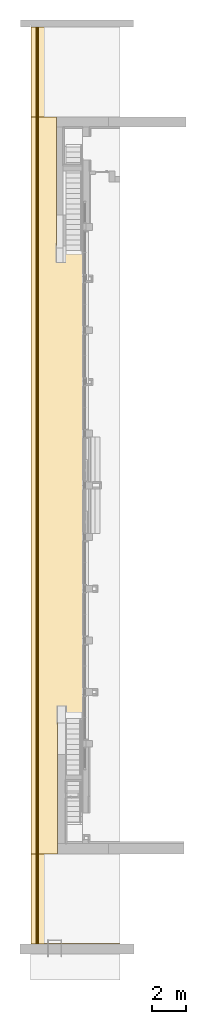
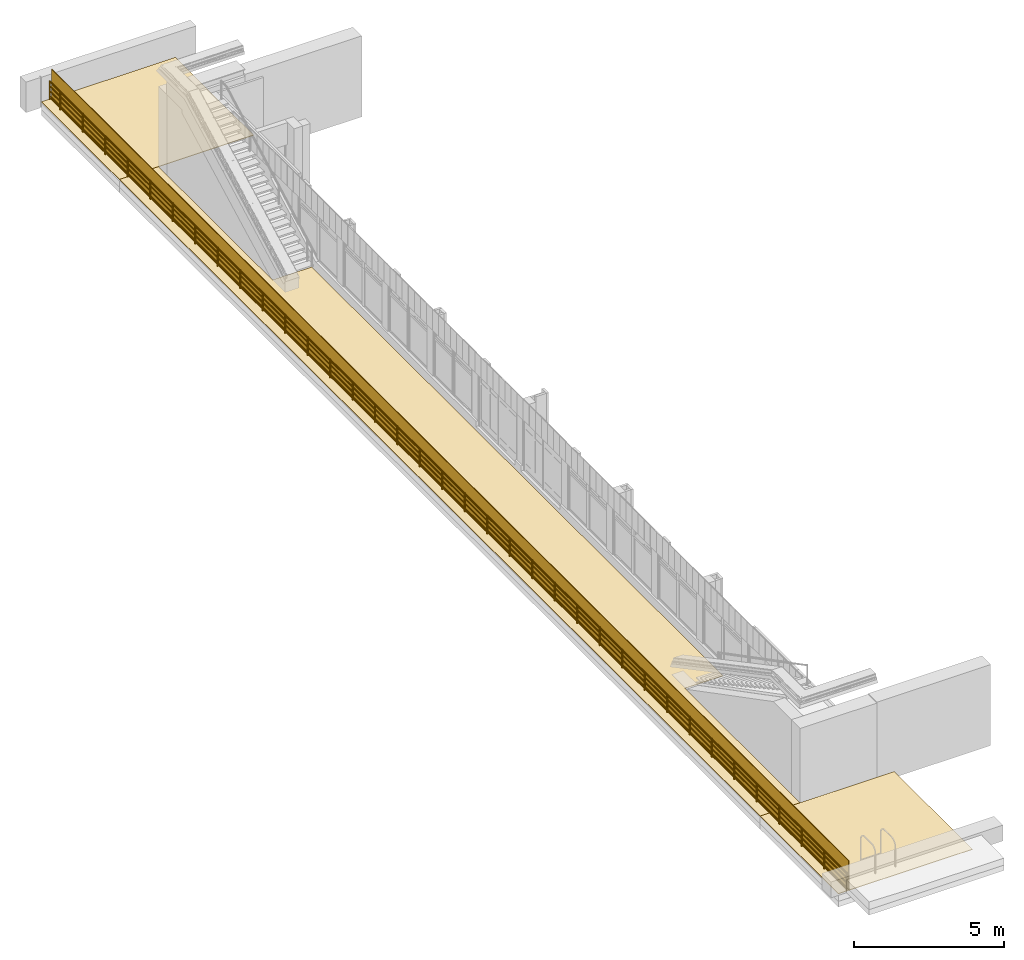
# One storey, part 13 of 16: 3 coverings, 2 railings.
"""IFC2X3 building model written with IfcOpenShell, lengths in millimetres."""

from ifc_helpers import new_model, entity, si_unit, converted_unit, derived_unit, direction, frame, frame_2d, origin, origin_2d_with_axis, place, context, subcontext, project, spatial, polyline, rectangle, circle, outline, extrude, material, material_list, layer, layer_set, layer_usage, type_object, element, save


model = new_model("IFC2X3")

# Units and contexts
model_context = context("Model", 3, precision=0.01, world=origin(), true_north=direction((6.123031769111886e-17, 1.0)))
body_context = subcontext(model_context, "Body", "Model", "MODEL_VIEW")
ifc_project = project(units=[si_unit("LENGTHUNIT", "METRE", prefix="MILLI"), si_unit("AREAUNIT", "SQUARE_METRE"), si_unit("VOLUMEUNIT", "CUBIC_METRE"), converted_unit("PLANEANGLEUNIT", "DEGREE", entity("IfcPlaneAngleMeasure", 0.017453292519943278), si_unit("PLANEANGLEUNIT", "RADIAN"), dimensions=[0, 0, 0, 0, 0, 0, 0]), si_unit("MASSUNIT", "GRAM", prefix="KILO"), derived_unit("MASSDENSITYUNIT", [(si_unit("MASSUNIT", "GRAM", prefix="KILO"), 1), (si_unit("LENGTHUNIT", "METRE"), -3)]), derived_unit("IONCONCENTRATIONUNIT", [(si_unit("MASSUNIT", "GRAM", prefix="KILO"), 1), (si_unit("LENGTHUNIT", "METRE"), -3)]), derived_unit("MOMENTOFINERTIAUNIT", [(si_unit("LENGTHUNIT", "METRE"), 4)]), si_unit("TIMEUNIT", "SECOND"), si_unit("FREQUENCYUNIT", "HERTZ"), si_unit("THERMODYNAMICTEMPERATUREUNIT", "DEGREE_CELSIUS"), derived_unit("THERMALTRANSMITTANCEUNIT", [(si_unit("MASSUNIT", "GRAM", prefix="KILO"), 1), (si_unit("THERMODYNAMICTEMPERATUREUNIT", "KELVIN"), -1), (si_unit("TIMEUNIT", "SECOND"), -3)]), derived_unit("THERMALCONDUCTANCEUNIT", [(si_unit("MASSUNIT", "GRAM", prefix="KILO"), 1), (si_unit("THERMODYNAMICTEMPERATUREUNIT", "KELVIN"), -1), (si_unit("TIMEUNIT", "SECOND"), -3), (si_unit("LENGTHUNIT", "METRE"), 1)]), derived_unit("VOLUMETRICFLOWRATEUNIT", [(si_unit("LENGTHUNIT", "METRE", prefix="DECI"), 3), (si_unit("TIMEUNIT", "SECOND"), -1)]), derived_unit("MASSFLOWRATEUNIT", [(si_unit("MASSUNIT", "GRAM", prefix="KILO"), 1), (si_unit("TIMEUNIT", "SECOND"), -1)]), derived_unit("ROTATIONALFREQUENCYUNIT", [(si_unit("TIMEUNIT", "SECOND"), -1)]), si_unit("ELECTRICCURRENTUNIT", "AMPERE"), si_unit("ELECTRICVOLTAGEUNIT", "VOLT"), si_unit("POWERUNIT", "WATT"), si_unit("FORCEUNIT", "NEWTON", prefix="KILO"), si_unit("ILLUMINANCEUNIT", "LUX"), si_unit("LUMINOUSFLUXUNIT", "LUMEN"), si_unit("LUMINOUSINTENSITYUNIT", "CANDELA"), si_unit("ENERGYUNIT", "JOULE"), derived_unit("USERDEFINED", [(si_unit("MASSUNIT", "GRAM", prefix="KILO"), -1), (si_unit("LENGTHUNIT", "METRE"), -2), (si_unit("TIMEUNIT", "SECOND"), 3), (si_unit("LUMINOUSFLUXUNIT", "LUMEN"), 1)]), derived_unit("USERDEFINED", [(si_unit("MASSUNIT", "GRAM", prefix="KILO"), 1), (si_unit("TIMEUNIT", "SECOND"), -3), (si_unit("LENGTHUNIT", "METRE"), 3), (si_unit("ELECTRICCURRENTUNIT", "AMPERE"), -2)]), derived_unit("SOUNDPOWERUNIT", [(si_unit("MASSUNIT", "GRAM", prefix="KILO"), 1), (si_unit("TIMEUNIT", "SECOND"), -3), (si_unit("LENGTHUNIT", "METRE"), 2)]), derived_unit("SOUNDPRESSUREUNIT", [(si_unit("MASSUNIT", "GRAM", prefix="KILO"), 1), (si_unit("LENGTHUNIT", "METRE"), -1), (si_unit("TIMEUNIT", "SECOND"), -2)]), derived_unit("LINEARVELOCITYUNIT", [(si_unit("LENGTHUNIT", "METRE"), 1), (si_unit("TIMEUNIT", "SECOND"), -1)]), si_unit("PRESSUREUNIT", "PASCAL"), derived_unit("USERDEFINED", [(si_unit("MASSUNIT", "GRAM", prefix="KILO"), 1), (si_unit("LENGTHUNIT", "METRE"), -2), (si_unit("TIMEUNIT", "SECOND"), -2)]), derived_unit("LINEARFORCEUNIT", [(si_unit("MASSUNIT", "GRAM", prefix="KILO"), 1), (si_unit("TIMEUNIT", "SECOND"), -2)]), derived_unit("PLANARFORCEUNIT", [(si_unit("MASSUNIT", "GRAM", prefix="KILO"), 1), (si_unit("LENGTHUNIT", "METRE"), -1), (si_unit("TIMEUNIT", "SECOND"), -2)]), derived_unit("SPECIFICHEATCAPACITYUNIT", [(si_unit("THERMODYNAMICTEMPERATUREUNIT", "KELVIN"), -1), (si_unit("LENGTHUNIT", "METRE"), 2), (si_unit("TIMEUNIT", "SECOND"), -2)]), derived_unit("HEATFLUXDENSITYUNIT", [(si_unit("MASSUNIT", "GRAM", prefix="KILO"), 1), (si_unit("TIMEUNIT", "SECOND"), -3)]), derived_unit("HEATINGVALUEUNIT", [(si_unit("LENGTHUNIT", "METRE"), 2), (si_unit("TIMEUNIT", "SECOND"), -2)]), derived_unit("VAPORPERMEABILITYUNIT", [(si_unit("LENGTHUNIT", "METRE"), -1), (si_unit("TIMEUNIT", "SECOND"), 1)]), derived_unit("DYNAMICVISCOSITYUNIT", [(si_unit("MASSUNIT", "GRAM", prefix="KILO"), 1), (si_unit("TIMEUNIT", "SECOND"), -1), (si_unit("LENGTHUNIT", "METRE"), -1)]), derived_unit("THERMALEXPANSIONCOEFFICIENTUNIT", [(si_unit("THERMODYNAMICTEMPERATUREUNIT", "KELVIN"), -1)]), derived_unit("MODULUSOFELASTICITYUNIT", [(si_unit("MASSUNIT", "GRAM", prefix="KILO"), 1), (si_unit("LENGTHUNIT", "METRE"), -1), (si_unit("TIMEUNIT", "SECOND"), -2)]), derived_unit("ISOTHERMALMOISTURECAPACITYUNIT", [(si_unit("MASSUNIT", "GRAM", prefix="KILO"), -1), (si_unit("LENGTHUNIT", "METRE"), 3)]), derived_unit("MOISTUREDIFFUSIVITYUNIT", [(si_unit("TIMEUNIT", "SECOND"), -1), (si_unit("LENGTHUNIT", "METRE"), 2)]), derived_unit("MASSPERLENGTHUNIT", [(si_unit("MASSUNIT", "GRAM", prefix="KILO"), 1), (si_unit("LENGTHUNIT", "METRE"), -1)]), derived_unit("THERMALRESISTANCEUNIT", [(si_unit("MASSUNIT", "GRAM", prefix="KILO"), -1), (si_unit("TIMEUNIT", "SECOND"), 3), (si_unit("THERMODYNAMICTEMPERATUREUNIT", "KELVIN"), 1)]), derived_unit("ACCELERATIONUNIT", [(si_unit("LENGTHUNIT", "METRE"), 1), (si_unit("TIMEUNIT", "SECOND"), -2)]), derived_unit("ANGULARVELOCITYUNIT", [(si_unit("TIMEUNIT", "SECOND"), -1), (si_unit("PLANEANGLEUNIT", "RADIAN"), 1)]), derived_unit("LINEARSTIFFNESSUNIT", [(si_unit("MASSUNIT", "GRAM", prefix="KILO"), 1), (si_unit("TIMEUNIT", "SECOND"), -2)]), derived_unit("WARPINGCONSTANTUNIT", [(si_unit("LENGTHUNIT", "METRE"), 6)]), derived_unit("LINEARMOMENTUNIT", [(si_unit("MASSUNIT", "GRAM", prefix="KILO"), 1), (si_unit("LENGTHUNIT", "METRE"), 1), (si_unit("TIMEUNIT", "SECOND"), -2)]), derived_unit("TORQUEUNIT", [(si_unit("MASSUNIT", "GRAM", prefix="KILO"), 1), (si_unit("LENGTHUNIT", "METRE"), 2), (si_unit("TIMEUNIT", "SECOND"), -2)])], contexts=[model_context])

# Site, building, storey
site_placement = place(None, origin())
site = spatial("IfcSite", under=ifc_project, at=site_placement, Name="Default", CompositionType="ELEMENT")
building_placement = place(site_placement, origin())
building = spatial("IfcBuilding", under=site, at=building_placement, Name="Eesti Rahvusraamatukogu hoone renoveerimise projekteerimistööd", CompositionType="ELEMENT")
storey_placement = place(building_placement, frame((0.0, 0.0, 8250.000000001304)))
storey = spatial("IfcBuildingStorey", under=building, at=storey_placement, Name="3. korrus", CompositionType="ELEMENT", Elevation=8250.000000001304)

# Coverings
ifc_material_1 = material(Name="EST. Betoonplaat hele")
ifc_layer_1 = layer(ifc_material_1, 20.0)
ifc_layer_set_1 = layer_set([ifc_layer_1], Name="Basic Roof:TV-01 plaat 2 (hele)")
ifc_layer_usage_1 = layer_usage(ifc_layer_set_1, "AXIS3", "NEGATIVE", 0.0)
covering_type_1 = type_object("IfcCoveringType", Name="Basic Roof:TV-01 plaat 2 (hele)", PredefinedType="NOTDEFINED")
covering_1_placement = place(storey_placement, frame((-36780.0, 6002.660586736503, 220.0)))
element("IfcCovering", 1, at=covering_1_placement, inside=storey, type_object=covering_type_1, material=ifc_layer_usage_1, Name="Basic Roof:TV-01 plaat 2 (hele)", ObjectType="Basic Roof:TV-01 plaat 2 (hele)", PredefinedType="NOTDEFINED", context=body_context, shape_type="SweptSolid", body=[
    extrude(outline(polyline([(-21369.73136215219, -1512.50000000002), (21407.608051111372, -1512.50000000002), (21407.608051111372, 27.499999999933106), (13711.854673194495, 27.499999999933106), (13711.854673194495, 1497.5000000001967), (-13749.731362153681, 1497.5000000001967), (-13749.731362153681, -12.499999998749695), (-21369.73136215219, -12.50000000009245), (-21369.73136215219, -1512.50000000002)])), frame((1512.50000000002, 21407.608051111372, 0.0), z_axis=(0.0, 0.0, 1.0), x_axis=(0.0, -1.0, 0.0)), (0.0, 0.0, 1.0), 19.999999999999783),
])
ifc_material_2 = material(Name="EST. Betoonplaat tume")
ifc_layer_2 = layer(ifc_material_2, 20.0)
ifc_layer_set_2 = layer_set([ifc_layer_2], Name="Basic Roof:TV-01 plaat 1 (tume)")
ifc_layer_usage_2 = layer_usage(ifc_layer_set_2, "AXIS3", "NEGATIVE", 0.0)
covering_type_2 = type_object("IfcCoveringType", Name="Basic Roof:TV-01 plaat 1 (tume)", PredefinedType="NOTDEFINED")
covering_2_placement = place(storey_placement, frame((-36780.0, 48780.0, 220.0)))
element("IfcCovering", 2, at=covering_2_placement, inside=storey, type_object=covering_type_2, material=ifc_layer_usage_2, Name="Basic Roof:TV-01 plaat 1 (tume)", ObjectType="Basic Roof:TV-01 plaat 1 (tume)", PredefinedType="NOTDEFINED", context=body_context, shape_type="SweptSolid", body=[
    extrude(rectangle(XDim=5220.000000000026, YDim=5170.181568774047, at=frame_2d((-4.320099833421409e-12, 1.7280399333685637e-11), x_axis=(1.0, 0.0))), frame((2585.0907843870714, 2610.0, 0.0), z_axis=(0.0, 0.0, 1.0), x_axis=(0.0, 1.0, 0.0)), (0.0, 0.0, 1.0), 19.999999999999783),
])
ifc_layer_usage_3 = layer_usage(ifc_layer_set_2, "AXIS3", "NEGATIVE", 0.0)
covering_3_placement = place(storey_placement, frame((-36780.0, 782.6605867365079, 220.0)))
element("IfcCovering", 3, at=covering_3_placement, inside=storey, type_object=covering_type_2, material=ifc_layer_usage_3, Name="Basic Roof:TV-01 plaat 1 (tume)", ObjectType="Basic Roof:TV-01 plaat 1 (tume)", PredefinedType="NOTDEFINED", context=body_context, shape_type="SweptSolid", body=[
    extrude(rectangle(XDim=5219.999999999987, YDim=5170.181568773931, at=frame_2d((-1.1368683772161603e-12, -6.59383658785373e-12), x_axis=(1.0, 0.0))), frame((2585.090784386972, 2610.0, 0.0), z_axis=(0.0, 0.0, 1.0), x_axis=(0.0, 1.0, 0.0)), (0.0, 0.0, 1.0), 19.999999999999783),
])

# Railings
ifc_material_3 = material(Name="EST. Metall. Teras. RAL9005")
ifc_material_4 = material(Name="ol. olev materjal")
ifc_material_list_1 = material_list([ifc_material_3, ifc_material_4])
railing_type_1 = type_object("IfcRailingType", Name="Railing:ol. olev - horisontaalsed pulgad, 750mm", PredefinedType="NOTDEFINED")
railing_1_placement = place(storey_placement, frame((-36488.10944520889, 765.9125000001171, 240.0)))
element("IfcRailing", 4, at=railing_1_placement, inside=storey, type_object=railing_type_1, material=ifc_material_list_1, Name="Railing:ol. olev - horisontaalsed pulgad, 750mm", ObjectType="Railing:ol. olev - horisontaalsed pulgad, 750mm", PredefinedType="NOTDEFINED", context=body_context, shape_type="SweptSolid", body=[
    extrude(circle(Radius=24.999999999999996, at=origin_2d_with_axis()), frame((31.595272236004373, 52514.0875, 0.0), z_axis=(0.0, 0.0, 1.0), x_axis=(-1.0, 0.0, 0.0)), (0.0, 0.0, 1.0), 749.9999999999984),
    extrude(circle(Radius=24.999999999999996, at=origin_2d_with_axis()), frame((31.595272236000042, 51014.087499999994, 0.0), z_axis=(0.0, 0.0, 1.0), x_axis=(-1.0, 0.0, 0.0)), (0.0, 0.0, 1.0), 749.9999999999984),
    extrude(circle(Radius=24.999999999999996, at=origin_2d_with_axis()), frame((31.595272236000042, 49514.0875, 0.0), z_axis=(0.0, 0.0, 1.0), x_axis=(-1.0, 0.0, 0.0)), (0.0, 0.0, 1.0), 749.9999999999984),
    extrude(circle(Radius=24.999999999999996, at=origin_2d_with_axis()), frame((31.595272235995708, 48014.0875, 0.0), z_axis=(0.0, 0.0, 1.0), x_axis=(-1.0, 0.0, 0.0)), (0.0, 0.0, 1.0), 749.9999999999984),
    extrude(circle(Radius=24.999999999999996, at=origin_2d_with_axis()), frame((31.595272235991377, 46514.087499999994, 0.0), z_axis=(0.0, 0.0, 1.0), x_axis=(-1.0, 0.0, 0.0)), (0.0, 0.0, 1.0), 749.9999999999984),
    extrude(circle(Radius=24.999999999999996, at=origin_2d_with_axis()), frame((31.595272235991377, 45014.0875, 0.0), z_axis=(0.0, 0.0, 1.0), x_axis=(-1.0, 0.0, 0.0)), (0.0, 0.0, 1.0), 749.9999999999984),
    extrude(circle(Radius=24.999999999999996, at=origin_2d_with_axis()), frame((31.595272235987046, 43514.087499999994, 0.0), z_axis=(0.0, 0.0, 1.0), x_axis=(-1.0, 0.0, 0.0)), (0.0, 0.0, 1.0), 749.9999999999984),
    extrude(circle(Radius=24.999999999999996, at=origin_2d_with_axis()), frame((31.595272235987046, 42014.0875, 0.0), z_axis=(0.0, 0.0, 1.0), x_axis=(-1.0, 0.0, 0.0)), (0.0, 0.0, 1.0), 749.9999999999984),
    extrude(circle(Radius=24.999999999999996, at=origin_2d_with_axis()), frame((31.595272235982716, 40514.0875, 0.0), z_axis=(0.0, 0.0, 1.0), x_axis=(-1.0, 0.0, 0.0)), (0.0, 0.0, 1.0), 749.9999999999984),
    extrude(circle(Radius=24.999999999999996, at=origin_2d_with_axis()), frame((31.595272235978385, 39014.0875, 0.0), z_axis=(0.0, 0.0, 1.0), x_axis=(-1.0, 0.0, 0.0)), (0.0, 0.0, 1.0), 749.9999999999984),
    extrude(circle(Radius=24.999999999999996, at=origin_2d_with_axis()), frame((31.595272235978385, 37514.0875, 0.0), z_axis=(0.0, 0.0, 1.0), x_axis=(-1.0, 0.0, 0.0)), (0.0, 0.0, 1.0), 749.9999999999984),
    extrude(circle(Radius=24.999999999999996, at=origin_2d_with_axis()), frame((31.59527223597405, 36014.0875, 0.0), z_axis=(0.0, 0.0, 1.0), x_axis=(-1.0, 0.0, 0.0)), (0.0, 0.0, 1.0), 749.9999999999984),
    extrude(circle(Radius=24.999999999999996, at=origin_2d_with_axis()), frame((31.59527223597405, 34514.0875, 0.0), z_axis=(0.0, 0.0, 1.0), x_axis=(-1.0, 0.0, 0.0)), (0.0, 0.0, 1.0), 749.9999999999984),
    extrude(circle(Radius=24.999999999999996, at=origin_2d_with_axis()), frame((31.59527223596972, 33014.0875, 0.0), z_axis=(0.0, 0.0, 1.0), x_axis=(-1.0, 0.0, 0.0)), (0.0, 0.0, 1.0), 749.9999999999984),
    extrude(circle(Radius=24.999999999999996, at=origin_2d_with_axis()), frame((31.59527223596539, 31514.0875, 0.0), z_axis=(0.0, 0.0, 1.0), x_axis=(-1.0, 0.0, 0.0)), (0.0, 0.0, 1.0), 749.9999999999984),
    extrude(circle(Radius=24.999999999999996, at=origin_2d_with_axis()), frame((31.59527223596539, 30014.0875, 0.0), z_axis=(0.0, 0.0, 1.0), x_axis=(-1.0, 0.0, 0.0)), (0.0, 0.0, 1.0), 749.9999999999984),
    extrude(circle(Radius=24.999999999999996, at=origin_2d_with_axis()), frame((31.59527223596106, 28514.087500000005, 0.0), z_axis=(0.0, 0.0, 1.0), x_axis=(-1.0, 0.0, 0.0)), (0.0, 0.0, 1.0), 749.9999999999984),
    extrude(circle(Radius=24.999999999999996, at=origin_2d_with_axis()), frame((31.59527223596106, 27014.087500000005, 0.0), z_axis=(0.0, 0.0, 1.0), x_axis=(-1.0, 0.0, 0.0)), (0.0, 0.0, 1.0), 749.9999999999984),
    extrude(circle(Radius=24.999999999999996, at=origin_2d_with_axis()), frame((31.595272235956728, 25514.0875, 0.0), z_axis=(0.0, 0.0, 1.0), x_axis=(-1.0, 0.0, 0.0)), (0.0, 0.0, 1.0), 749.9999999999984),
    extrude(circle(Radius=24.999999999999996, at=origin_2d_with_axis()), frame((31.595272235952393, 24014.0875, 0.0), z_axis=(0.0, 0.0, 1.0), x_axis=(-1.0, 0.0, 0.0)), (0.0, 0.0, 1.0), 749.9999999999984),
    extrude(circle(Radius=24.999999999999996, at=origin_2d_with_axis()), frame((31.595272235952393, 22514.0875, 0.0), z_axis=(0.0, 0.0, 1.0), x_axis=(-1.0, 0.0, 0.0)), (0.0, 0.0, 1.0), 749.9999999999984),
    extrude(circle(Radius=24.999999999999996, at=origin_2d_with_axis()), frame((31.595272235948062, 21014.087500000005, 0.0), z_axis=(0.0, 0.0, 1.0), x_axis=(-1.0, 0.0, 0.0)), (0.0, 0.0, 1.0), 749.9999999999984),
    extrude(circle(Radius=24.999999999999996, at=origin_2d_with_axis()), frame((31.595272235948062, 19514.0875, 0.0), z_axis=(0.0, 0.0, 1.0), x_axis=(-1.0, 0.0, 0.0)), (0.0, 0.0, 1.0), 749.9999999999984),
    extrude(circle(Radius=24.999999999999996, at=origin_2d_with_axis()), frame((31.59527223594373, 18014.0875, 0.0), z_axis=(0.0, 0.0, 1.0), x_axis=(-1.0, 0.0, 0.0)), (0.0, 0.0, 1.0), 749.9999999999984),
    extrude(circle(Radius=24.999999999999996, at=origin_2d_with_axis()), frame((31.59527223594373, 16514.0875, 0.0), z_axis=(0.0, 0.0, 1.0), x_axis=(-1.0, 0.0, 0.0)), (0.0, 0.0, 1.0), 749.9999999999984),
    extrude(circle(Radius=24.999999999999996, at=origin_2d_with_axis()), frame((31.5952722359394, 15014.087500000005, 0.0), z_axis=(0.0, 0.0, 1.0), x_axis=(-1.0, 0.0, 0.0)), (0.0, 0.0, 1.0), 749.9999999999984),
    extrude(circle(Radius=24.999999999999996, at=origin_2d_with_axis()), frame((31.59527223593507, 13514.087499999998, 0.0), z_axis=(0.0, 0.0, 1.0), x_axis=(-1.0, 0.0, 0.0)), (0.0, 0.0, 1.0), 749.9999999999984),
    extrude(circle(Radius=24.999999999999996, at=origin_2d_with_axis()), frame((31.59527223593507, 12014.087500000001, 0.0), z_axis=(0.0, 0.0, 1.0), x_axis=(-1.0, 0.0, 0.0)), (0.0, 0.0, 1.0), 749.9999999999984),
    extrude(circle(Radius=24.999999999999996, at=origin_2d_with_axis()), frame((31.595272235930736, 10514.087500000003, 0.0), z_axis=(0.0, 0.0, 1.0), x_axis=(-1.0, 0.0, 0.0)), (0.0, 0.0, 1.0), 749.9999999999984),
    extrude(circle(Radius=24.999999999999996, at=origin_2d_with_axis()), frame((31.595272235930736, 9014.087499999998, 0.0), z_axis=(0.0, 0.0, 1.0), x_axis=(-1.0, 0.0, 0.0)), (0.0, 0.0, 1.0), 749.9999999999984),
    extrude(circle(Radius=24.999999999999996, at=origin_2d_with_axis()), frame((31.595272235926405, 7514.087500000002, 0.0), z_axis=(0.0, 0.0, 1.0), x_axis=(-1.0, 0.0, 0.0)), (0.0, 0.0, 1.0), 749.9999999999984),
    extrude(circle(Radius=24.999999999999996, at=origin_2d_with_axis()), frame((31.595272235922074, 6014.087500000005, 0.0), z_axis=(0.0, 0.0, 1.0), x_axis=(-1.0, 0.0, 0.0)), (0.0, 0.0, 1.0), 749.9999999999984),
    extrude(circle(Radius=24.999999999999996, at=origin_2d_with_axis()), frame((31.595272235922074, 4514.0875, 0.0), z_axis=(0.0, 0.0, 1.0), x_axis=(-1.0, 0.0, 0.0)), (0.0, 0.0, 1.0), 749.9999999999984),
    extrude(circle(Radius=24.999999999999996, at=origin_2d_with_axis()), frame((31.595272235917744, 3014.0875000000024, 0.0), z_axis=(0.0, 0.0, 1.0), x_axis=(-1.0, 0.0, 0.0)), (0.0, 0.0, 1.0), 749.9999999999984),
    extrude(circle(Radius=24.999999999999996, at=origin_2d_with_axis()), frame((31.595272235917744, 1514.087499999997, 0.0), z_axis=(0.0, 0.0, 1.0), x_axis=(-1.0, 0.0, 0.0)), (0.0, 0.0, 1.0), 749.9999999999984),
    extrude(circle(Radius=24.999999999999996, at=origin_2d_with_axis()), frame((31.595272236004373, 53221.58750000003, 0.0), z_axis=(0.0, 0.0, 1.0), x_axis=(-1.0, 0.0, 0.0)), (0.0, 0.0, 1.0), 749.9999999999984),
    extrude(circle(Radius=24.999999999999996, at=frame_2d((2.31347478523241e-28, -1.353583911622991e-13), x_axis=(1.0, 0.0))), frame((31.595272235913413, 26.58749999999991, 0.0), z_axis=(0.0, 0.0, 1.0), x_axis=(-1.0, 0.0, 0.0)), (0.0, 0.0, 1.0), 749.9999999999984),
    extrude(circle(Radius=20.0, at=origin_2d_with_axis()), frame((31.595272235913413, 14.087500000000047, 530.0), z_axis=(0.0, 1.0, 0.0), x_axis=(1.0, 0.0, 0.0)), (0.0, 0.0, 1.0), 53220.00000000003),
    extrude(circle(Radius=20.0, at=origin_2d_with_axis()), frame((31.595272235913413, 14.087500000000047, 330.0), z_axis=(0.0, 1.0, 0.0), x_axis=(1.0, 0.0, 0.0)), (0.0, 0.0, 1.0), 53220.00000000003),
    extrude(circle(Radius=20.0, at=origin_2d_with_axis()), frame((31.595272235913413, 14.087500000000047, 130.0), z_axis=(0.0, 1.0, 0.0), x_axis=(1.0, 0.0, 0.0)), (0.0, 0.0, 1.0), 53220.00000000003),
    extrude(circle(Radius=30.0, at=origin_2d_with_axis()), frame((31.595272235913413, 14.087500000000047, 720.0), z_axis=(0.0, 1.0, 0.0), x_axis=(-1.0, 0.0, 0.0)), (0.0, 0.0, 1.0), 53220.00000000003),
])
ifc_material_5 = material(Name="EST. Klaas. 1x. Default")
ifc_material_6 = material(Name="EST. Metall. Alumiinium. Värvitud. RAL8022")
ifc_material_list_2 = material_list([ifc_material_5, ifc_material_6])
railing_type_2 = type_object("IfcRailingType", Name="Railing:KP-01 - Klaaspiire, 1200mm, c/c 4m", PredefinedType="NOTDEFINED")
railing_2_placement = place(storey_placement, frame((-36429.014172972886, 780.0, 240.0)))
element("IfcRailing", 5, at=railing_2_placement, inside=storey, type_object=railing_type_2, material=ifc_material_list_2, Name="Railing:KP-01 - Klaaspiire, 1200mm, c/c 4m", ObjectType="Railing:KP-01 - Klaaspiire, 1200mm, c/c 4m", PredefinedType="NOTDEFINED", context=body_context, shape_type="SweptSolid", body=[
    extrude(rectangle(XDim=53220.00000000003, YDim=23.999999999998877, at=frame_2d((0.0, 2.1662671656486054e-12), x_axis=(1.0, 0.0))), frame((50.0, 26610.0, 20.0), z_axis=(0.0, 0.0, 1.0), x_axis=(0.0, -1.0, 0.0)), (0.0, 0.0, 1.0), 1180.0000000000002),
    extrude(rectangle(XDim=53220.00000000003, YDim=99.99999999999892, at=frame_2d((0.0, -2.1671553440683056e-12), x_axis=(1.0, 0.0))), frame((50.0, 26610.0, 0.0), z_axis=(0.0, 0.0, 1.0), x_axis=(0.0, -1.0, 0.0)), (0.0, 0.0, 1.0), 19.999999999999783),
])

save(model, "model.ifc")
